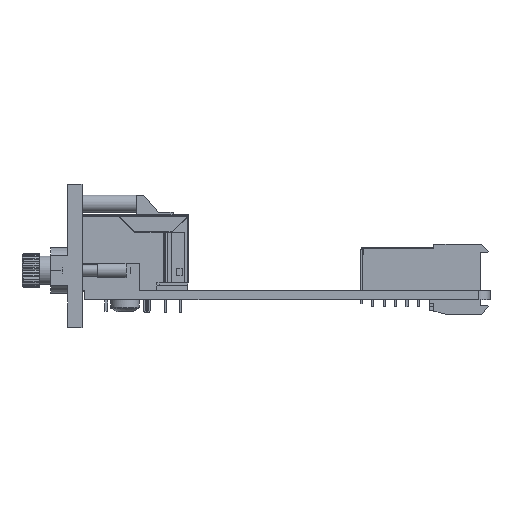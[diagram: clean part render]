
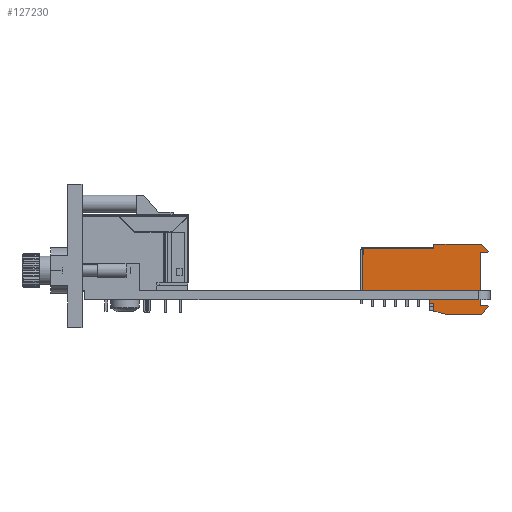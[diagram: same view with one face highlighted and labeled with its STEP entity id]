
A CAD part, front view. The second image highlights one B-rep face of the part: STEP entity #127230.
In plain terms, the highlighted planar face has unit normal (0, -1, 0).
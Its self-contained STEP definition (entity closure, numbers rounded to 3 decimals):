
#4219=PLANE('',#136058);
#10158=FACE_OUTER_BOUND('',#16803,.T.);
#16803=EDGE_LOOP('',(#99757,#99758,#99759,#99760,#99761,#99762,#99763,#99764,
#99765,#99766,#99767,#99768,#99769,#99770,#99771,#99772,#99773,#99774,#99775,
#99776));
#27675=LINE('',#200149,#40998);
#27711=LINE('',#200269,#41034);
#27712=LINE('',#200271,#41035);
#27713=LINE('',#200273,#41036);
#27714=LINE('',#200275,#41037);
#27715=LINE('',#200277,#41038);
#27716=LINE('',#200279,#41039);
#27717=LINE('',#200281,#41040);
#27718=LINE('',#200283,#41041);
#27719=LINE('',#200285,#41042);
#27720=LINE('',#200287,#41043);
#27721=LINE('',#200289,#41044);
#27722=LINE('',#200290,#41045);
#27723=LINE('',#200292,#41046);
#27724=LINE('',#200296,#41047);
#27725=LINE('',#200298,#41048);
#27726=LINE('',#200300,#41049);
#27727=LINE('',#200302,#41050);
#27728=LINE('',#200303,#41051);
#40998=VECTOR('',#160451,1000.);
#41034=VECTOR('',#160517,1000.);
#41035=VECTOR('',#160518,1000.);
#41036=VECTOR('',#160519,1000.);
#41037=VECTOR('',#160520,1000.);
#41038=VECTOR('',#160521,1000.);
#41039=VECTOR('',#160522,1000.);
#41040=VECTOR('',#160523,1000.);
#41041=VECTOR('',#160524,1000.);
#41042=VECTOR('',#160525,1000.);
#41043=VECTOR('',#160526,1000.);
#41044=VECTOR('',#160527,1000.);
#41045=VECTOR('',#160528,1000.);
#41046=VECTOR('',#160529,1000.);
#41047=VECTOR('',#160532,1000.);
#41048=VECTOR('',#160533,1000.);
#41049=VECTOR('',#160534,1000.);
#41050=VECTOR('',#160535,1000.);
#41051=VECTOR('',#160536,1000.);
#48462=CIRCLE('',#136059,0.15);
#56893=VERTEX_POINT('',#200146);
#56894=VERTEX_POINT('',#200148);
#56934=VERTEX_POINT('',#200267);
#56935=VERTEX_POINT('',#200268);
#56936=VERTEX_POINT('',#200270);
#56937=VERTEX_POINT('',#200272);
#56938=VERTEX_POINT('',#200274);
#56939=VERTEX_POINT('',#200276);
#56940=VERTEX_POINT('',#200278);
#56941=VERTEX_POINT('',#200280);
#56942=VERTEX_POINT('',#200282);
#56943=VERTEX_POINT('',#200284);
#56944=VERTEX_POINT('',#200286);
#56945=VERTEX_POINT('',#200288);
#56946=VERTEX_POINT('',#200291);
#56947=VERTEX_POINT('',#200293);
#56948=VERTEX_POINT('',#200295);
#56949=VERTEX_POINT('',#200297);
#56950=VERTEX_POINT('',#200299);
#56951=VERTEX_POINT('',#200301);
#72272=EDGE_CURVE('',#56893,#56894,#27675,.T.);
#72318=EDGE_CURVE('',#56934,#56935,#27711,.T.);
#72319=EDGE_CURVE('',#56935,#56936,#27712,.T.);
#72320=EDGE_CURVE('',#56936,#56937,#27713,.T.);
#72321=EDGE_CURVE('',#56938,#56937,#27714,.T.);
#72322=EDGE_CURVE('',#56939,#56938,#27715,.T.);
#72323=EDGE_CURVE('',#56940,#56939,#27716,.T.);
#72324=EDGE_CURVE('',#56941,#56940,#27717,.T.);
#72325=EDGE_CURVE('',#56941,#56942,#27718,.T.);
#72326=EDGE_CURVE('',#56943,#56942,#27719,.T.);
#72327=EDGE_CURVE('',#56944,#56943,#27720,.T.);
#72328=EDGE_CURVE('',#56945,#56944,#27721,.T.);
#72329=EDGE_CURVE('',#56945,#56894,#27722,.T.);
#72330=EDGE_CURVE('',#56946,#56893,#27723,.T.);
#72331=EDGE_CURVE('',#56947,#56946,#48462,.T.);
#72332=EDGE_CURVE('',#56948,#56947,#27724,.T.);
#72333=EDGE_CURVE('',#56949,#56948,#27725,.T.);
#72334=EDGE_CURVE('',#56949,#56950,#27726,.T.);
#72335=EDGE_CURVE('',#56951,#56950,#27727,.T.);
#72336=EDGE_CURVE('',#56934,#56951,#27728,.T.);
#99757=ORIENTED_EDGE('',*,*,#72318,.T.);
#99758=ORIENTED_EDGE('',*,*,#72319,.T.);
#99759=ORIENTED_EDGE('',*,*,#72320,.T.);
#99760=ORIENTED_EDGE('',*,*,#72321,.F.);
#99761=ORIENTED_EDGE('',*,*,#72322,.F.);
#99762=ORIENTED_EDGE('',*,*,#72323,.F.);
#99763=ORIENTED_EDGE('',*,*,#72324,.F.);
#99764=ORIENTED_EDGE('',*,*,#72325,.T.);
#99765=ORIENTED_EDGE('',*,*,#72326,.F.);
#99766=ORIENTED_EDGE('',*,*,#72327,.F.);
#99767=ORIENTED_EDGE('',*,*,#72328,.F.);
#99768=ORIENTED_EDGE('',*,*,#72329,.T.);
#99769=ORIENTED_EDGE('',*,*,#72272,.F.);
#99770=ORIENTED_EDGE('',*,*,#72330,.F.);
#99771=ORIENTED_EDGE('',*,*,#72331,.F.);
#99772=ORIENTED_EDGE('',*,*,#72332,.F.);
#99773=ORIENTED_EDGE('',*,*,#72333,.F.);
#99774=ORIENTED_EDGE('',*,*,#72334,.T.);
#99775=ORIENTED_EDGE('',*,*,#72335,.F.);
#99776=ORIENTED_EDGE('',*,*,#72336,.F.);
#127230=ADVANCED_FACE('',(#10158),#4219,.T.);
#136058=AXIS2_PLACEMENT_3D('',#200266,#160515,#160516);
#136059=AXIS2_PLACEMENT_3D('',#200294,#160530,#160531);
#160451=DIRECTION('',(1.,0.,0.));
#160515=DIRECTION('center_axis',(0.,-1.,0.));
#160516=DIRECTION('ref_axis',(1.,0.,0.));
#160517=DIRECTION('',(0.,0.,-1.));
#160518=DIRECTION('',(0.966,0.,-0.259));
#160519=DIRECTION('',(1.,0.,0.));
#160520=DIRECTION('',(-0.707,0.,-0.707));
#160521=DIRECTION('',(0.707,0.,-0.707));
#160522=DIRECTION('',(1.,0.,0.));
#160523=DIRECTION('',(0.,0.,-1.));
#160524=DIRECTION('',(1.,0.,0.));
#160525=DIRECTION('',(-0.707,0.,-0.707));
#160526=DIRECTION('',(0.707,0.,-0.707));
#160527=DIRECTION('',(1.,0.,0.));
#160528=DIRECTION('',(0.,0.,-1.));
#160529=DIRECTION('',(1.,0.,0.));
#160530=DIRECTION('center_axis',(0.,1.,0.));
#160531=DIRECTION('ref_axis',(1.,0.,0.));
#160532=DIRECTION('',(0.087,0.,0.996));
#160533=DIRECTION('',(0.,0.,1.));
#160534=DIRECTION('',(1.,0.,0.));
#160535=DIRECTION('',(0.,0.,1.));
#160536=DIRECTION('',(-1.,0.,0.));
#200146=CARTESIAN_POINT('',(24.175,-13.95,8.203));
#200148=CARTESIAN_POINT('',(25.625,-13.95,8.203));
#200149=CARTESIAN_POINT('',(32.775,-13.95,8.203));
#200266=CARTESIAN_POINT('Origin',(13.468,-13.95,8.053));
#200267=CARTESIAN_POINT('',(25.625,-13.95,-1.522));
#200268=CARTESIAN_POINT('',(25.625,-13.95,-2.786));
#200269=CARTESIAN_POINT('',(25.625,-13.95,-1.797));
#200270=CARTESIAN_POINT('',(27.625,-13.95,-3.322));
#200271=CARTESIAN_POINT('',(25.625,-13.95,-2.786));
#200272=CARTESIAN_POINT('',(33.95,-13.95,-3.322));
#200273=CARTESIAN_POINT('',(25.625,-13.95,-3.322));
#200274=CARTESIAN_POINT('',(35.275,-13.95,-1.997));
#200275=CARTESIAN_POINT('',(29.396,-13.95,-7.876));
#200276=CARTESIAN_POINT('',(35.075,-13.95,-1.797));
#200277=CARTESIAN_POINT('',(19.346,-13.95,13.932));
#200278=CARTESIAN_POINT('',(33.775,-13.95,-1.797));
#200279=CARTESIAN_POINT('',(25.625,-13.95,-1.797));
#200280=CARTESIAN_POINT('',(33.775,-13.95,7.403));
#200281=CARTESIAN_POINT('',(33.775,-13.95,-2.497));
#200282=CARTESIAN_POINT('',(35.075,-13.95,7.403));
#200283=CARTESIAN_POINT('',(25.625,-13.95,7.403));
#200284=CARTESIAN_POINT('',(35.275,-13.95,7.603));
#200285=CARTESIAN_POINT('',(24.596,-13.95,-3.076));
#200286=CARTESIAN_POINT('',(33.95,-13.95,8.928));
#200287=CARTESIAN_POINT('',(24.146,-13.95,18.732));
#200288=CARTESIAN_POINT('',(25.625,-13.95,8.928));
#200289=CARTESIAN_POINT('',(25.625,-13.95,8.928));
#200290=CARTESIAN_POINT('',(25.625,-13.95,7.403));
#200291=CARTESIAN_POINT('',(13.468,-13.95,8.203));
#200292=CARTESIAN_POINT('',(32.775,-13.95,8.203));
#200293=CARTESIAN_POINT('',(13.319,-13.95,8.066));
#200294=CARTESIAN_POINT('Origin',(13.468,-13.95,8.053));
#200295=CARTESIAN_POINT('',(13.125,-13.95,5.853));
#200296=CARTESIAN_POINT('',(13.319,-13.95,8.066));
#200297=CARTESIAN_POINT('',(13.125,-13.95,0.803));
#200298=CARTESIAN_POINT('',(13.125,-13.95,8.053));
#200299=CARTESIAN_POINT('',(24.875,-13.95,0.803));
#200300=CARTESIAN_POINT('',(12.875,-13.95,0.803));
#200301=CARTESIAN_POINT('',(24.875,-13.95,-1.522));
#200302=CARTESIAN_POINT('',(24.875,-13.95,-2.207));
#200303=CARTESIAN_POINT('',(25.625,-13.95,-1.522));
